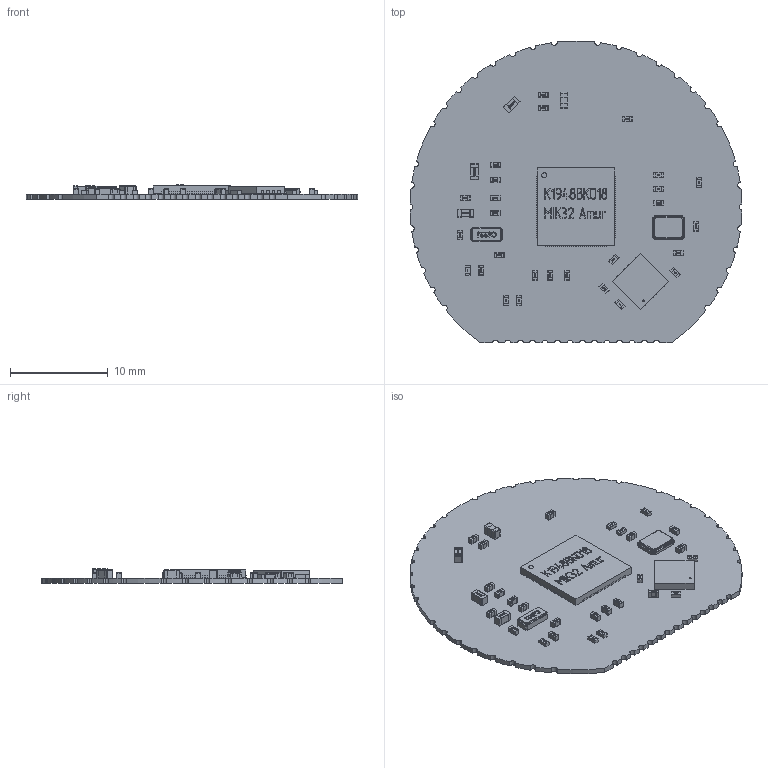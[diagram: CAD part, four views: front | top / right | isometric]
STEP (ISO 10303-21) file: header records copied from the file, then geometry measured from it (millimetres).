
FILE_DESCRIPTION(('Open CASCADE Model'),'2;1');
FILE_NAME('Open CASCADE Shape Model','2024-12-12T14:09:44',('Author'),( 'Open CASCADE'),'Open CASCADE STEP processor 7.5','Open CASCADE 7.5' ,'Unknown');
FILE_SCHEMA(('AUTOMOTIVE_DESIGN { 1 0 10303 214 1 1 1 1 }'));
Length unit declared in the file: millimetre
Products named in the file (46): PCB; Board; Open CASCADE STEP translator 7.5 2.1.1; C3; csmd-0402_l1_w0-5_h0-56; R24; User Library-SMD RESISTOR-10402; L1; User Library-INDC1608X___; C34; C33; C39; C24; DD3; User Library-QFN64_8x8_amur; ZQ1; FC-135; R10; ZQ2; User Library-tsx-3225-1; R40; R7; R19; R25; R23; R28; R2; DD1; 6618539776; C22; C18; csmd-0603_l1-6_w0-81_h0-86; C38; C16; C19; C9; C13; C8; C10; C26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
Assembly tree (72 placements, depth 3):
  PCB
    Board
      Open CASCADE STEP translator 7.5 2.1.1
    C3
      csmd-0402_l1_w0-5_h0-56
    R24
      User Library-SMD RESISTOR-10402
    L1
      User Library-INDC1608X___
    C34
      csmd-0402_l1_w0-5_h0-56
    C33
      csmd-0402_l1_w0-5_h0-56
    C39
      csmd-0402_l1_w0-5_h0-56
    C24
      csmd-0402_l1_w0-5_h0-56
    DD3
      User Library-QFN64_8x8_amur
    ZQ1
      FC-135
    R10
      User Library-SMD RESISTOR-10402
    ZQ2
      User Library-tsx-3225-1
    R40
      User Library-SMD RESISTOR-10402
    R7
      User Library-SMD RESISTOR-10402
    R19
      User Library-SMD RESISTOR-10402
    R25
      User Library-SMD RESISTOR-10402
    R23
      User Library-SMD RESISTOR-10402
    R28
      User Library-SMD RESISTOR-10402
    R2
      User Library-SMD RESISTOR-10402
    DD1
      6618539776
    C22
      csmd-0402_l1_w0-5_h0-56
    C18
      csmd-0603_l1-6_w0-81_h0-86
    C38
      csmd-0402_l1_w0-5_h0-56
    C16
      csmd-0402_l1_w0-5_h0-56
    C19
      csmd-0402_l1_w0-5_h0-56
    C9
      csmd-0402_l1_w0-5_h0-56
    C13
      csmd-0402_l1_w0-5_h0-56
    C8
      csmd-0402_l1_w0-5_h0-56
    C10
      csmd-0402_l1_w0-5_h0-56
    C26
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Bounding box: 34 x 30.91 x 1.51 mm (x, y, z)
Volume: 524.5 mm3; surface area: 2168.5 mm2
Topology: 79 solids, 79 shells, 8847 faces, 23321 edges, 14722 vertices
Faces by surface type: plane 5680, bspline 1489, cylinder 1056, sphere 336, extrusion 262, torus 20, cone 4
Full cylindrical faces by diameter (mm): 0.204 x1
Entity records: 88840 total; most frequent: CARTESIAN_POINT 26073, ORIENTED_EDGE 12178, DIRECTION 9962, EDGE_CURVE 6089, VECTOR 4636, LINE 4374, VERTEX_POINT 3962, AXIS2_PLACEMENT_3D 2663
